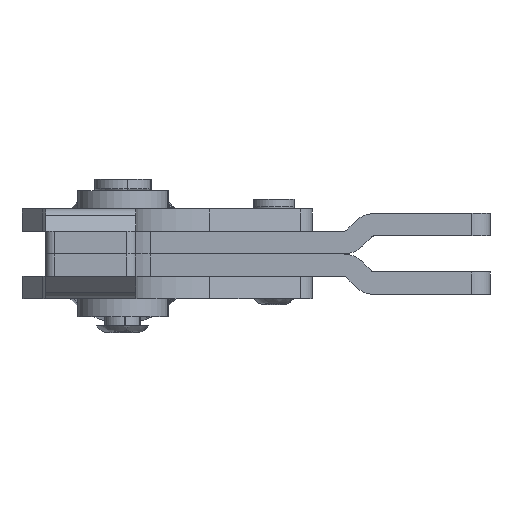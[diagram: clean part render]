
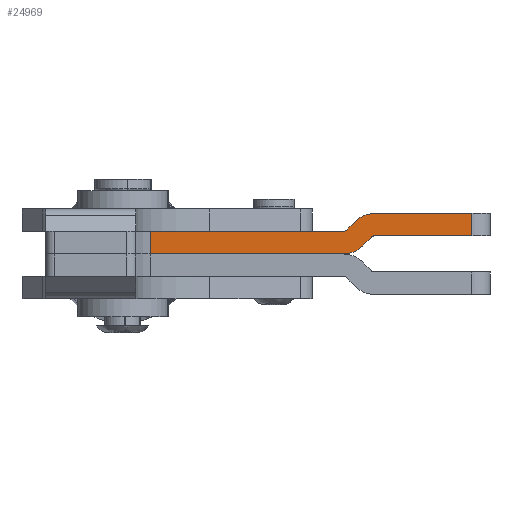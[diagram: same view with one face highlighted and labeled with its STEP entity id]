
A CAD part, left-side view. The second image highlights one B-rep face of the part: STEP entity #24969.
In plain terms, the highlighted planar face has unit normal (-1, 0, 0).
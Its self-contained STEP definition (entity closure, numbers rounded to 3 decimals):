
#379 = CARTESIAN_POINT ( 'NONE',  ( -30., -22.359, 4. ) ) ;
#1160 = DIRECTION ( 'NONE',  ( 0., 0., 1. ) ) ;
#1807 = CARTESIAN_POINT ( 'NONE',  ( -30., -15.459, 1. ) ) ;
#2221 = DIRECTION ( 'NONE',  ( 0., 0., 1. ) ) ;
#2294 = DIRECTION ( 'NONE',  ( 0., 1., 0. ) ) ;
#2531 = DIRECTION ( 'NONE',  ( 0., -1., 0. ) ) ;
#3093 = CARTESIAN_POINT ( 'NONE',  ( -30., -21.652, -1.293 ) ) ;
#3399 = CARTESIAN_POINT ( 'NONE',  ( -30., -22.359, -2. ) ) ;
#3603 = VECTOR ( 'NONE', #15092, 1000. ) ;
#3822 = CARTESIAN_POINT ( 'NONE',  ( -30., 27.469, -5. ) ) ;
#4640 = LINE ( 'NONE', #3822, #40298 ) ;
#6098 = ORIENTED_EDGE ( 'NONE', *, *, #37376, .T. ) ;
#6122 = CIRCLE ( 'NONE', #12742, 1. ) ;
#6468 = DIRECTION ( 'NONE',  ( 0., -1., 0. ) ) ;
#6691 = AXIS2_PLACEMENT_3D ( 'NONE', #1807, #30353, #14366 ) ;
#7109 = AXIS2_PLACEMENT_3D ( 'NONE', #3399, #24989, #6468 ) ;
#8105 = EDGE_CURVE ( 'NONE', #30238, #19165, #24286, .T. ) ;
#8728 = EDGE_CURVE ( 'NONE', #29422, #38331, #12713, .T. ) ;
#9298 = CARTESIAN_POINT ( 'NONE',  ( -30., -48., -5. ) ) ;
#9356 = FACE_OUTER_BOUND ( 'NONE', #31371, .T. ) ;
#9999 = CARTESIAN_POINT ( 'NONE',  ( -30., -15.459, 1. ) ) ;
#10273 = DIRECTION ( 'NONE',  ( 0., -1., 0. ) ) ;
#10569 = VERTEX_POINT ( 'NONE', #36140 ) ;
#10776 = ORIENTED_EDGE ( 'NONE', *, *, #24939, .F. ) ;
#11366 = VECTOR ( 'NONE', #10273, 1000. ) ;
#12713 = LINE ( 'NONE', #25253, #25936 ) ;
#12742 = AXIS2_PLACEMENT_3D ( 'NONE', #9999, #22526, #35045 ) ;
#14366 = DIRECTION ( 'NONE',  ( 0., -1., 0. ) ) ;
#14382 = CIRCLE ( 'NONE', #7109, 1. ) ;
#14848 = ORIENTED_EDGE ( 'NONE', *, *, #19399, .F. ) ;
#15074 = EDGE_CURVE ( 'NONE', #38331, #30238, #6122, .T. ) ;
#15092 = DIRECTION ( 'NONE',  ( 0., 1., 0. ) ) ;
#15196 = CARTESIAN_POINT ( 'NONE',  ( -30., -44., -1. ) ) ;
#15432 = VECTOR ( 'NONE', #2294, 1000. ) ;
#15501 = LINE ( 'NONE', #9298, #27049 ) ;
#15929 = CIRCLE ( 'NONE', #6691, 6. ) ;
#16258 = CARTESIAN_POINT ( 'NONE',  ( -30., -44., 4. ) ) ;
#16335 = DIRECTION ( 'NONE',  ( 0., 0., 1. ) ) ;
#17165 = DIRECTION ( 'NONE',  ( 0., -1., 0. ) ) ;
#17576 = DIRECTION ( 'NONE',  ( 1., 0., 0. ) ) ;
#17920 = CARTESIAN_POINT ( 'NONE',  ( -30., 33.49, 0. ) ) ;
#18002 = CARTESIAN_POINT ( 'NONE',  ( -30., -19.702, -3.243 ) ) ;
#18414 = VERTEX_POINT ( 'NONE', #16258 ) ;
#18882 = CARTESIAN_POINT ( 'NONE',  ( -30., -22.359, -1. ) ) ;
#18898 = ORIENTED_EDGE ( 'NONE', *, *, #8728, .T. ) ;
#19140 = CARTESIAN_POINT ( 'NONE',  ( -30., -15.459, 0. ) ) ;
#19165 = VERTEX_POINT ( 'NONE', #22912 ) ;
#19206 = CARTESIAN_POINT ( 'NONE',  ( -30., -48., -5. ) ) ;
#19399 = EDGE_CURVE ( 'NONE', #23334, #19165, #4640, .T. ) ;
#19457 = CARTESIAN_POINT ( 'NONE',  ( -30., -19.702, -3.243 ) ) ;
#19595 = AXIS2_PLACEMENT_3D ( 'NONE', #19206, #31922, #16335 ) ;
#19722 = CARTESIAN_POINT ( 'NONE',  ( -30., -47.98, -1. ) ) ;
#20114 = EDGE_CURVE ( 'NONE', #18414, #39910, #28204, .T. ) ;
#20539 = VERTEX_POINT ( 'NONE', #3093 ) ;
#21005 = CARTESIAN_POINT ( 'NONE',  ( -30., -16.166, 0.293 ) ) ;
#21837 = VERTEX_POINT ( 'NONE', #28754 ) ;
#22216 = VERTEX_POINT ( 'NONE', #19457 ) ;
#22526 = DIRECTION ( 'NONE',  ( 1., 0., 0. ) ) ;
#22912 = CARTESIAN_POINT ( 'NONE',  ( -30., 27.469, 0. ) ) ;
#23214 = ORIENTED_EDGE ( 'NONE', *, *, #8105, .T. ) ;
#23317 = CARTESIAN_POINT ( 'NONE',  ( -30., -22.359, -2. ) ) ;
#23334 = VERTEX_POINT ( 'NONE', #23796 ) ;
#23425 = ORIENTED_EDGE ( 'NONE', *, *, #25678, .T. ) ;
#23788 = CARTESIAN_POINT ( 'NONE',  ( -30., -18.116, 2.243 ) ) ;
#23796 = CARTESIAN_POINT ( 'NONE',  ( -30., 27.469, -5. ) ) ;
#24286 = LINE ( 'NONE', #17920, #15432 ) ;
#24512 = CARTESIAN_POINT ( 'NONE',  ( -30., 33.51, 4. ) ) ;
#24912 = CIRCLE ( 'NONE', #36696, 6. ) ;
#24939 = EDGE_CURVE ( 'NONE', #38846, #20539, #14382, .T. ) ;
#24969 = ADVANCED_FACE ( 'NONE', ( #9356 ), #34405, .T. ) ;
#24989 = DIRECTION ( 'NONE',  ( -1., 0., 0. ) ) ;
#25253 = CARTESIAN_POINT ( 'NONE',  ( -30., 19.918, -35.791 ) ) ;
#25609 = VECTOR ( 'NONE', #2221, 1000. ) ;
#25678 = EDGE_CURVE ( 'NONE', #22216, #20539, #31856, .T. ) ;
#25936 = VECTOR ( 'NONE', #37737, 1000. ) ;
#26599 = ORIENTED_EDGE ( 'NONE', *, *, #20114, .T. ) ;
#27049 = VECTOR ( 'NONE', #2531, 1000. ) ;
#27780 = ORIENTED_EDGE ( 'NONE', *, *, #39307, .F. ) ;
#28204 = LINE ( 'NONE', #24512, #3603 ) ;
#28754 = CARTESIAN_POINT ( 'NONE',  ( -30., -15.459, -5. ) ) ;
#29422 = VERTEX_POINT ( 'NONE', #23788 ) ;
#29966 = ORIENTED_EDGE ( 'NONE', *, *, #31554, .T. ) ;
#30238 = VERTEX_POINT ( 'NONE', #19140 ) ;
#30353 = DIRECTION ( 'NONE',  ( -1., 0., 0. ) ) ;
#30519 = DIRECTION ( 'NONE',  ( 0., -0.707, 0.707 ) ) ;
#31371 = EDGE_LOOP ( 'NONE', ( #34270, #6098, #23425, #10776, #32488, #29966, #26599, #27780, #18898, #38592, #23214, #14848 ) ) ;
#31554 = EDGE_CURVE ( 'NONE', #10569, #18414, #36528, .T. ) ;
#31856 = LINE ( 'NONE', #18002, #31861 ) ;
#31861 = VECTOR ( 'NONE', #30519, 1000. ) ;
#31922 = DIRECTION ( 'NONE',  ( -1., 0., 0. ) ) ;
#32488 = ORIENTED_EDGE ( 'NONE', *, *, #38708, .T. ) ;
#34270 = ORIENTED_EDGE ( 'NONE', *, *, #34305, .T. ) ;
#34305 = EDGE_CURVE ( 'NONE', #23334, #21837, #15501, .T. ) ;
#34405 = PLANE ( 'NONE',  #19595 ) ;
#35045 = DIRECTION ( 'NONE',  ( 0., -1., 0. ) ) ;
#36140 = CARTESIAN_POINT ( 'NONE',  ( -30., -44., -1. ) ) ;
#36528 = LINE ( 'NONE', #15196, #25609 ) ;
#36696 = AXIS2_PLACEMENT_3D ( 'NONE', #23317, #17576, #17165 ) ;
#37376 = EDGE_CURVE ( 'NONE', #21837, #22216, #15929, .T. ) ;
#37737 = DIRECTION ( 'NONE',  ( 0., 0.707, -0.707 ) ) ;
#38331 = VERTEX_POINT ( 'NONE', #21005 ) ;
#38390 = LINE ( 'NONE', #19722, #11366 ) ;
#38592 = ORIENTED_EDGE ( 'NONE', *, *, #15074, .T. ) ;
#38708 = EDGE_CURVE ( 'NONE', #38846, #10569, #38390, .T. ) ;
#38846 = VERTEX_POINT ( 'NONE', #18882 ) ;
#39307 = EDGE_CURVE ( 'NONE', #29422, #39910, #24912, .T. ) ;
#39910 = VERTEX_POINT ( 'NONE', #379 ) ;
#40298 = VECTOR ( 'NONE', #1160, 1000. ) ;
